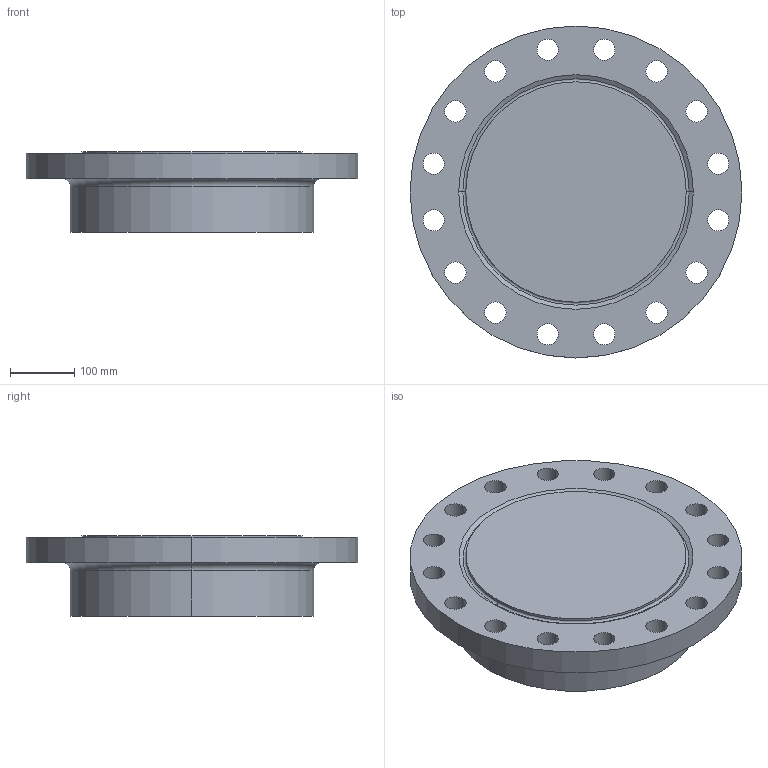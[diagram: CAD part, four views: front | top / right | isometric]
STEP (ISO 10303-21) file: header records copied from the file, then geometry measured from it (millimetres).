
FILE_DESCRIPTION (( 'STEP AP214' ), '1' );
FILE_NAME ('PN40 DN300 Type 21(i) - Type H Face.STEP', '2019-01-05T20:16:12', ( '' ), ( '' ), 'SwSTEP 2.0', 'SolidWorks 2019', '' );
FILE_SCHEMA (( 'AUTOMOTIVE_DESIGN' ));
Length unit declared in the file: millimetre
Products named in the file (1): PN40 DN300 Type 21(i) - Type H Face
Bounding box: 515 x 515 x 125 mm (x, y, z)
Volume: 17234169.2 mm3; surface area: 618735.2 mm2
Topology: 1 solids, 1 shells, 48 faces, 126 edges, 82 vertices
Faces by surface type: cylinder 38, torus 4, plane 4, cone 2
Entity records: 1626 total; most frequent: DIRECTION 310, CARTESIAN_POINT 257, ORIENTED_EDGE 252, AXIS2_PLACEMENT_3D 135, EDGE_CURVE 126, CIRCLE 86, VERTEX_POINT 82, EDGE_LOOP 82
